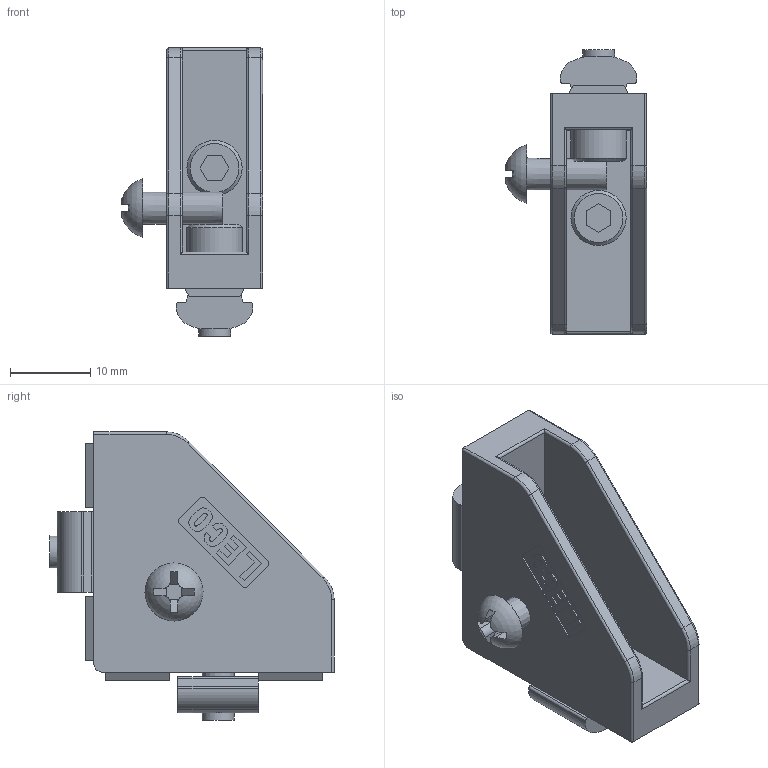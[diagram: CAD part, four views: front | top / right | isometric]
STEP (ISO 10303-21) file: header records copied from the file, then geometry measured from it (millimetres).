
FILE_DESCRIPTION(('STEP AP214'),'1');
FILE_NAME('BL25S-B.stp','2021-12-27T02:55:05',(' '),(' '),'Spatial InterOp 3D',' ',' ');
FILE_SCHEMA(('AUTOMOTIVE_DESIGN { 1 0 10303 214 1 1 1 1 }'));
Length unit declared in the file: millimetre
Products named in the file (7): BL25S-B; BL25S-H; NF25-M4; ねじ: 穴付き - M4.0 x 10.0; ねじ: 丸頭 - M4.0 x 10.0
Assembly tree (6 placements, depth 2):
  BL25S-B
    BL25S-H
    NF25-M4
    NF25-M4
    ねじ: 穴付き - M4.0 x 10.0
    ねじ: 穴付き - M4.0 x 10.0
    ねじ: 丸頭 - M4.0 x 10.0
Bounding box: 17.64 x 35.5 x 36 mm (x, y, z)
Volume: 6152.4 mm3; surface area: 5460 mm2
Topology: 6 solids, 6 shells, 298 faces, 773 edges, 506 vertices
Faces by surface type: plane 165, cylinder 119, torus 8, cone 5, sphere 1
Full cylindrical faces by diameter (mm): 4 x4, 4.5 x2, 6.9 x2
Entity records: 11631 total; most frequent: CARTESIAN_POINT 1632, DIRECTION 1617, ORIENTED_EDGE 1508, EDGE_CURVE 754, AXIS2_PLACEMENT_3D 566, VERTEX_POINT 501, LINE 485, VECTOR 485
